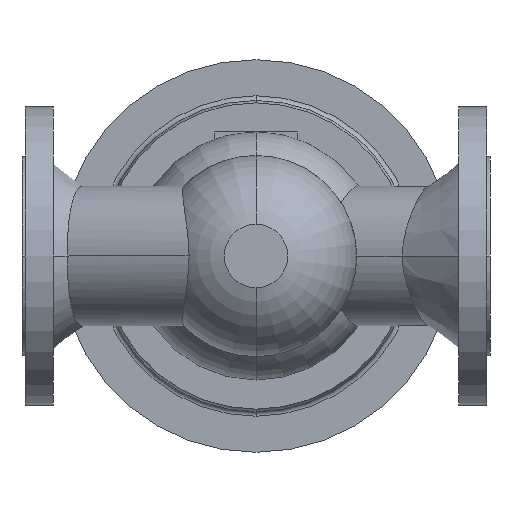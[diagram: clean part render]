
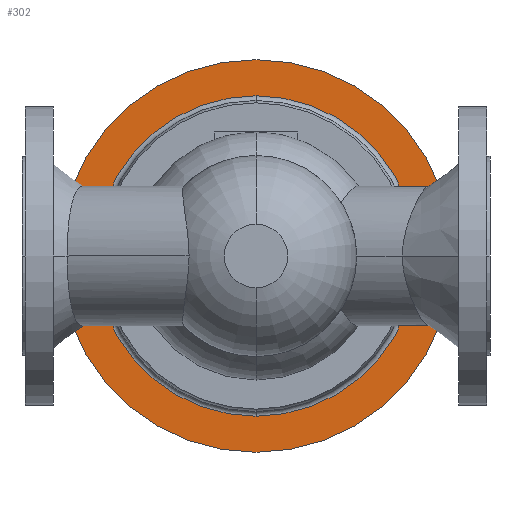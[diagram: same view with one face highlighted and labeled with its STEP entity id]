
A CAD part, front view. The second image highlights one B-rep face of the part: STEP entity #302.
In plain terms, the highlighted planar face has unit normal (0, -1, 0).
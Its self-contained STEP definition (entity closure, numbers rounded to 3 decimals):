
#302 = ADVANCED_FACE( '', ( #708, #709 ), #710, .T. );
#708 = FACE_OUTER_BOUND( '', #1123, .T. );
#709 = FACE_BOUND( '', #1124, .T. );
#710 = PLANE( '', #1125 );
#1123 = EDGE_LOOP( '', ( #2577, #2578 ) );
#1124 = EDGE_LOOP( '', ( #2579, #2580, #2581 ) );
#1125 = AXIS2_PLACEMENT_3D( '', #2582, #2583, #2584 );
#2577 = ORIENTED_EDGE( '', *, *, #2924, .F. );
#2578 = ORIENTED_EDGE( '', *, *, #3095, .F. );
#2579 = ORIENTED_EDGE( '', *, *, #3093, .T. );
#2580 = ORIENTED_EDGE( '', *, *, #2931, .T. );
#2581 = ORIENTED_EDGE( '', *, *, #3094, .T. );
#2582 = CARTESIAN_POINT( '', ( 262.5, 466., 0. ) );
#2583 = DIRECTION( '', ( 0., -1., 0. ) );
#2584 = DIRECTION( '', ( -1., 0., 0. ) );
#2924 = EDGE_CURVE( '', #3586, #3589, #3590, .T. );
#2931 = EDGE_CURVE( '', #3595, #3601, #3603, .T. );
#3093 = EDGE_CURVE( '', #3872, #3595, #3873, .T. );
#3094 = EDGE_CURVE( '', #3601, #3872, #3874, .T. );
#3095 = EDGE_CURVE( '', #3589, #3586, #3875, .T. );
#3586 = VERTEX_POINT( '', #5100 );
#3589 = VERTEX_POINT( '', #5104 );
#3590 = CIRCLE( '', #5105, 125. );
#3595 = VERTEX_POINT( '', #5111 );
#3601 = VERTEX_POINT( '', #5117 );
#3603 = CIRCLE( '', #5119, 102. );
#3872 = VERTEX_POINT( '', #5457 );
#3873 = CIRCLE( '', #5458, 102. );
#3874 = CIRCLE( '', #5459, 102. );
#3875 = CIRCLE( '', #5460, 125. );
#5100 = CARTESIAN_POINT( '', ( 274., 466., 0. ) );
#5104 = CARTESIAN_POINT( '', ( 24., 466., 0. ) );
#5105 = AXIS2_PLACEMENT_3D( '', #6036, #6037, #6038 );
#5111 = CARTESIAN_POINT( '', ( 149., 466., -102. ) );
#5117 = CARTESIAN_POINT( '', ( 149., 466., 102. ) );
#5119 = AXIS2_PLACEMENT_3D( '', #6055, #6056, #6057 );
#5457 = CARTESIAN_POINT( '', ( 251., 466., 0. ) );
#5458 = AXIS2_PLACEMENT_3D( '', #6403, #6404, #6405 );
#5459 = AXIS2_PLACEMENT_3D( '', #6406, #6407, #6408 );
#5460 = AXIS2_PLACEMENT_3D( '', #6409, #6410, #6411 );
#6036 = CARTESIAN_POINT( '', ( 149., 466., 0. ) );
#6037 = DIRECTION( '', ( 0., 1., 0. ) );
#6038 = DIRECTION( '', ( 1., 0., 0. ) );
#6055 = CARTESIAN_POINT( '', ( 149., 466., 0. ) );
#6056 = DIRECTION( '', ( 0., 1., 0. ) );
#6057 = DIRECTION( '', ( 1., 0., 0. ) );
#6403 = CARTESIAN_POINT( '', ( 149., 466., 0. ) );
#6404 = DIRECTION( '', ( 0., 1., 0. ) );
#6405 = DIRECTION( '', ( 1., 0., 0. ) );
#6406 = CARTESIAN_POINT( '', ( 149., 466., 0. ) );
#6407 = DIRECTION( '', ( 0., 1., 0. ) );
#6408 = DIRECTION( '', ( 1., 0., 0. ) );
#6409 = CARTESIAN_POINT( '', ( 149., 466., 0. ) );
#6410 = DIRECTION( '', ( 0., 1., 0. ) );
#6411 = DIRECTION( '', ( 1., 0., 0. ) );
